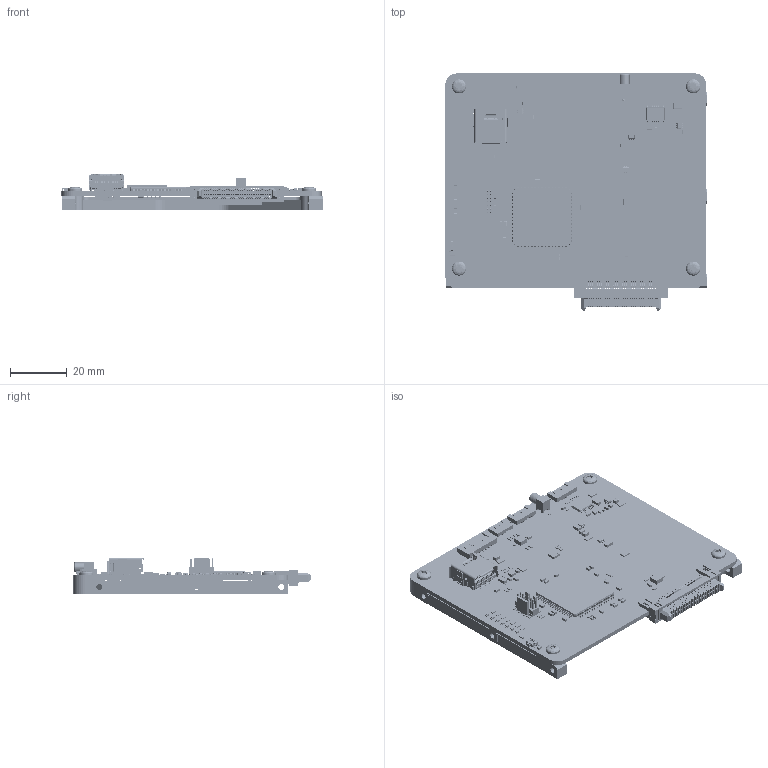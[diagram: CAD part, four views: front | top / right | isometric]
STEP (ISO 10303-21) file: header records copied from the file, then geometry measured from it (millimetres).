
FILE_DESCRIPTION (( 'STEP AP214' ), '1' );
FILE_NAME ('040700_001_PayloadSB.STEP', '2026-11-16T13:56:36', ( '' ), ( '' ), 'SwSTEP 2.0', 'SolidWorks 2024', '' );
FILE_SCHEMA (( 'AUTOMOTIVE_DESIGN' ));
Length unit declared in the file: millimetre
Products named in the file (54): 434331013822_CMP-00609-1; CAP_0603_CMP-00625-1_Standard; Jumper_0603_1x2_C_CMP-123-000001-2; RES_0603_CMP-00662-1; 040700_ELE_PayloadSB_BOARD; TCAN3404DRBRQ1-Footprint-1_CMP-00592-1_Standard; RES_1206_CMP-00777-1; RES_0402_CMP-00725-1; RES_0603_CMP-00730-1; FP-PW0020A-IPC_A_CMP-095-000018-1; WL-SMCW_0603_150060xx75000_CMP-00593-1_Standard; RES_0603_CMP-00729-2; 66011102111302_CMP-015-000054-1; RES_0603_CMP-00726-1; RES_0402_CMP-00724-1; 999999_COTS_ISO_7380-1_M2.5x06; THVD1424RGTR-Footprint-1_CMP-095-000019-3; CAP_0603_CMP-00732-1; 040900_STR_001_SSBFrame_Inside; CAP_0402_CMP-00624-2_Standard; RES_0402_CMP-00617-2_Standard; FP-8MA2-IPC_A_CMP-047-000003-1; 040700_ELE_PayloadSB; RES_0603_CMP-00694-1; RES_0603_CMP-00728-2; FP-504050-0791-MFG_CMP-015-000053-1; STM32L4R5ZIT6P-Footprint-1_CMP-00528-3; 040700_001_PayloadSB; 0603_Capacitor_CMP-001-00002-2; RES_0603_CMP-00737-1; RES_0603_CMP-00692-1; WE-VE_femtoF_0402_CMP-00703-2; WE-XTAL_IQXC-25_CMP-00543-1; RES_0603_CMP-00714-1; SAMTEC_ERM8-030-01-X-D-EM2-SL-XX_CMP-043-000000-8; WL-SMCW_0603_150060xx75003_CMP-00605-2_Standard; TPS22811LRPWR-Footprint-1_CMP-00738-1; FTSH-107-01-L-DV-K-A-TR-Footprint-1_CMP-015-000041-1; RES_0402_CMP-00656-1; SOT65P210X110-6N_CMP-00620-1_Standard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
Assembly tree (166 placements, depth 3):
  040700_001_PayloadSB
    040700_ELE_PayloadSB
      040700_ELE_PayloadSB_BOARD
      WE-VE_femtoF_0402_CMP-00703-2
      FP-8MA2-IPC_A_CMP-047-000003-1  x3
      WE-VE_0402_CMP-00704-1  x6
      RES_0603_CMP-00714-1  x6
      66011102111302_CMP-015-000054-1
      PAC1944_CMP-00630-1_Standard
      RES_0402_CMP-00725-1  x2
      RES_0402_CMP-00724-1  x2
      SOT65P210X110-6N_CMP-00620-1_Standard  x4
      PowerDI-123_CMP-011-000011-1  x5
      WCAP-CSGP_0805_L2W1.25H1.25_CMP-03913-65419825-1_Standard  x4
      RES_1206_CMP-00777-1  x4
      DMN2040U-7-Footprint-1_CMP-00713-1  x2
      FP-503763-0691-MFG_CMP-015-000026-2_Standard  x2
      CAP_0402_CMP-00624-2_Standard  x6
      RES_0603_CMP-00662-1  x20
      THVD1424RGTR-Footprint-1_CMP-095-000019-3  x4
      CAP_0603_CMP-00625-1_Standard  x24
      TPS22811LRPWR-Footprint-1_CMP-00738-1
      RES_0603_CMP-00726-1
      RES_0603_CMP-00737-1
      RES_0603_CMP-00729-2
      RES_0603_CMP-00730-1
      RES_0603_CMP-00728-2
      RES_0402_CMP-00656-1  x7
      CAP_0603_CMP-00732-1
      CAP_0603_CMP-00718-1  x2
      SAMTEC_ERM8-030-01-X-D-EM2-SL-XX_CMP-043-000000-8
      FTSH-107-01-L-DV-K-A-TR-Footprint-1_CMP-015-000041-1
      Jumper_0603_1x2_C_CMP-123-000001-2
      WE-XTAL_IQXC-25_CMP-00543-1
      SA818S-U-Footprint-1_CMP-095-000015-3
      FP-PW0020A-IPC_A_CMP-095-000018-1
      434331013822_CMP-00609-1
      RES_0603_CMP-00692-1
      RES_0603_CMP-00694-1  x4
      RES_0603_CMP-00621-1_Standard  x8
      RES_0402_CMP-00617-2_Standard  x2
      PICOLOCK_4_1MM_CMP-123-000000-2
      STM32L4R5ZIT6P-Footprint-1_CMP-00528-3
      FP-504050-0791-MFG_CMP-015-000053-1
      SAMTEC_ARF6-08-S-RA-TR_CMP-021-000000-3
      WL-SMCW_0603_150060xx75003_CMP-00605-2_Standard  x7
      WL-SMCW_0603_150060xx75000_CMP-00593-1_Standard
      TCAN3404DRBRQ1-Footprint-1_CMP-00592-1_Standard
      0603_Capacitor_CMP-001-00002-2  x4
      CAP_0402_CMP-00556-2  x4
      CAP_0603_CMP-00691-1  x2
      CAP_0603_CMP-00693-1
    040900_STR_001_SSBFrame_Inside
    999999_COTS_ISO_7380-1_M2.5x06  x4
Bounding box: 92.35 x 83.85 x 12.8 mm (x, y, z)
Volume: 22238.8 mm3; surface area: 34264.2 mm2
Topology: 910 solids, 929 shells, 25403 faces, 66534 edges, 43036 vertices
Faces by surface type: plane 17198, cylinder 7013, sphere 588, bspline 556, cone 44, torus 4
Entity records: 780172 total; most frequent: CARTESIAN_POINT 123947, ORIENTED_EDGE 103552, DIRECTION 93078, EDGE_CURVE 51777, VECTOR 38420, LINE 38420, VERTEX_POINT 34046, AXIS2_PLACEMENT_3D 27329
